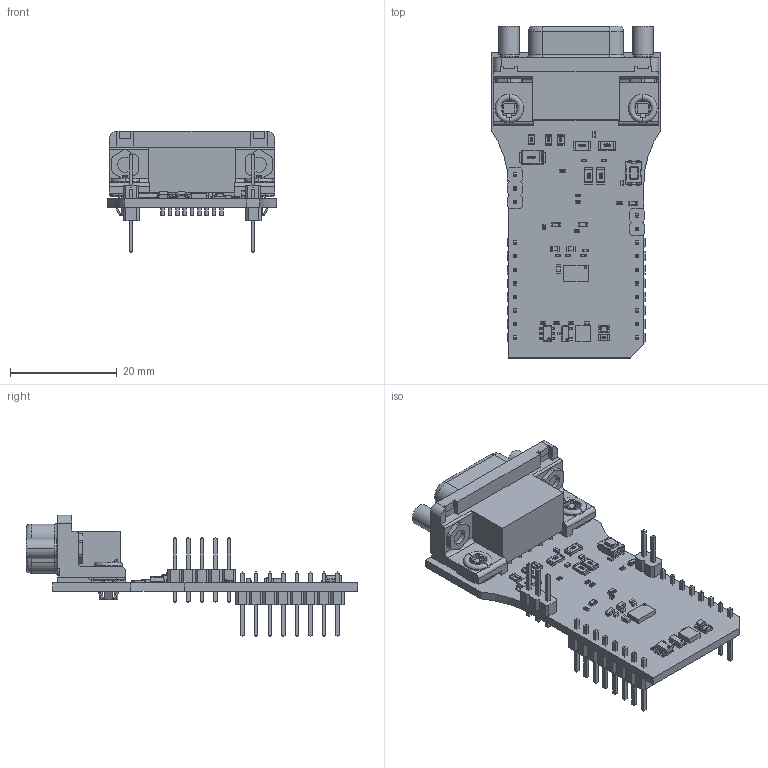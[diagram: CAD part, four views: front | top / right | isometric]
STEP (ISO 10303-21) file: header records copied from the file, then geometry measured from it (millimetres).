
FILE_DESCRIPTION(('Open CASCADE Model'),'2;1');
FILE_NAME('Open CASCADE Shape Model','2025-08-19T12:32:57',('Author'),( 'Open CASCADE'),'Open CASCADE STEP processor 6.8','Open CASCADE 6.8' ,'Unknown');
FILE_SCHEMA(('AUTOMOTIVE_DESIGN { 1 0 10303 214 1 1 1 1 }'));
Length unit declared in the file: millimetre
Products named in the file (76): PCB; Board; R15; User_Library-R_0402; R14; LD4; Led_0603_Green; LD3; C9; User_Library-SMD_CAPACITOR0402; C8; R8; User_Library-R_0805; R7; R6; C12; User_Library-SMD_CAPACITOR0603; C11; T1; User_Library-Switch-CK-KMR2; User_Library-Switch-CK-KMR2_Button; User_Library-Switch-CK-KMR2_Boitier; User_Library-Switch-CK-KMR2_Tole; User_Library-Switch-CK-KMR2_Pads; CN1; 5747840-5-d-3d; U2; User_Library-SOT23-6-2; U1; 1053853360; Extruded; Q1; SOT23-3; R4; C1; R2; LD1; led_0805_green; R1; R3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
Assembly tree (102 placements, depth 7):
  PCB
    Board
    R15
      User_Library-R_0402
    R14
      User_Library-R_0402
    LD4
      Led_0603_Green
    LD3
      Led_0603_Green
    C9
      User_Library-SMD_CAPACITOR0402
    C8
      User_Library-SMD_CAPACITOR0402
    R8
      User_Library-R_0805
    R7
      User_Library-R_0805
    R6
      User_Library-R_0805
    C12
      User_Library-SMD_CAPACITOR0603
    C11
      User_Library-SMD_CAPACITOR0402
    T1
      User_Library-Switch-CK-KMR2
        User_Library-Switch-CK-KMR2_Button
        User_Library-Switch-CK-KMR2_Boitier
        User_Library-Switch-CK-KMR2_Tole
        User_Library-Switch-CK-KMR2_Pads
    CN1
      5747840-5-d-3d
    U2
      User_Library-SOT23-6-2
    U1
      1053853360
        Extruded
    Q1
      SOT23-3
    R4
      User_Library-R_0402
    C1
      User_Library-SMD_CAPACITOR0402
    R2
      User_Library-R_0402
    LD1
      led_0805_green
    R1
      User_Library-R_0805
    R3
      User_Library-R_0402
    MBD1
      Header_1x8  x2
        PCB
          Free-Models
            1240637040  x2
              User_Library-PinHeaderX5-1_PinHeaderX5_Body_1
              User_Library-PinHeaderX5-1_PinHeaderX5_Pins_1
    C2
      User_Library-SMD_CAPACITOR0603
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Bounding box: 31.75 x 62.12 x 22.78 mm (x, y, z)
Volume: 6117.6 mm3; surface area: 8611.9 mm2
Topology: 109 solids, 111 shells, 3898 faces, 9754 edges, 6164 vertices
Faces by surface type: plane 2585, bspline 601, cylinder 546, sphere 140, torus 16, cone 10
Full cylindrical faces by diameter (mm): 0.4 x1
Entity records: 71369 total; most frequent: CARTESIAN_POINT 19937, ORIENTED_EDGE 9150, DIRECTION 8567, EDGE_CURVE 4575, LINE 3415, VECTOR 3415, VERTEX_POINT 2918, AXIS2_PLACEMENT_3D 2576
